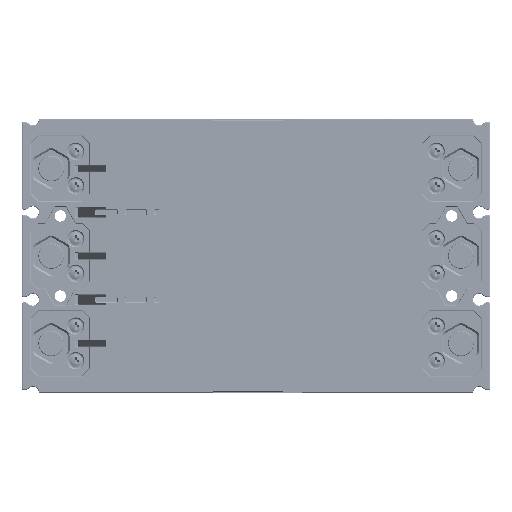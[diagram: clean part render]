
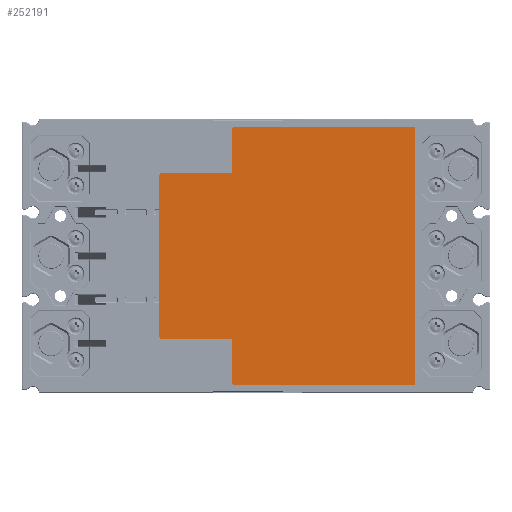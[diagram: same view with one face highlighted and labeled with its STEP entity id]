
A CAD part, front view. The second image highlights one B-rep face of the part: STEP entity #252191.
In plain terms, the highlighted planar face has unit normal (0, -1, 0) as drawn and (0, 0, 1) by its records, which use the part's own axes.
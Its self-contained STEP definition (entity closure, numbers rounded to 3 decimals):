
#251768=CARTESIAN_POINT('',(-44.5,139.5,0.5));
#251769=DIRECTION('',(0.,0.,-1.));
#251770=DIRECTION('',(-1.,0.,0.));
#251771=AXIS2_PLACEMENT_3D('',#251768,#251769,#251770);
#251773=DIRECTION('',(1.,0.,0.));
#251774=VECTOR('',#251773,89.);
#251775=CARTESIAN_POINT('',(-44.5,140.5,0.5));
#251776=LINE('',#251775,#251774);
#251777=CARTESIAN_POINT('',(44.5,139.5,0.5));
#251778=DIRECTION('',(0.,0.,-1.));
#251779=DIRECTION('',(0.,1.,0.));
#251780=AXIS2_PLACEMENT_3D('',#251777,#251778,#251779);
#251782=DIRECTION('',(0.,-1.,0.));
#251783=VECTOR('',#251782,38.);
#251784=CARTESIAN_POINT('',(45.5,139.5,0.5));
#251785=LINE('',#251784,#251783);
#251786=CARTESIAN_POINT('',(46.5,101.5,0.5));
#251787=DIRECTION('',(0.,0.,1.));
#251788=DIRECTION('',(-1.,0.,0.));
#251789=AXIS2_PLACEMENT_3D('',#251786,#251787,#251788);
#251791=DIRECTION('',(1.,0.,0.));
#251792=VECTOR('',#251791,23.5);
#251793=CARTESIAN_POINT('',(46.5,100.5,0.5));
#251794=LINE('',#251793,#251792);
#251795=CARTESIAN_POINT('',(70.,99.5,0.5));
#251796=DIRECTION('',(0.,0.,-1.));
#251797=DIRECTION('',(0.,1.,0.));
#251798=AXIS2_PLACEMENT_3D('',#251795,#251796,#251797);
#251800=DIRECTION('',(0.,-1.,0.));
#251801=VECTOR('',#251800,98.5);
#251802=CARTESIAN_POINT('',(71.,99.5,0.5));
#251803=LINE('',#251802,#251801);
#251804=CARTESIAN_POINT('',(70.,1.,0.5));
#251805=DIRECTION('',(0.,0.,-1.));
#251806=DIRECTION('',(1.,0.,0.));
#251807=AXIS2_PLACEMENT_3D('',#251804,#251805,#251806);
#251809=DIRECTION('',(-1.,0.,0.));
#251810=VECTOR('',#251809,140.);
#251811=CARTESIAN_POINT('',(70.,0.,0.5));
#251812=LINE('',#251811,#251810);
#251813=CARTESIAN_POINT('',(-70.,1.,0.5));
#251814=DIRECTION('',(0.,0.,-1.));
#251815=DIRECTION('',(0.,-1.,0.));
#251816=AXIS2_PLACEMENT_3D('',#251813,#251814,#251815);
#251818=DIRECTION('',(0.,1.,0.));
#251819=VECTOR('',#251818,98.5);
#251820=CARTESIAN_POINT('',(-71.,1.,0.5));
#251821=LINE('',#251820,#251819);
#251822=CARTESIAN_POINT('',(-70.,99.5,0.5));
#251823=DIRECTION('',(0.,0.,-1.));
#251824=DIRECTION('',(-1.,0.,0.));
#251825=AXIS2_PLACEMENT_3D('',#251822,#251823,#251824);
#251827=DIRECTION('',(1.,0.,0.));
#251828=VECTOR('',#251827,23.5);
#251829=CARTESIAN_POINT('',(-70.,100.5,0.5));
#251830=LINE('',#251829,#251828);
#251831=CARTESIAN_POINT('',(-46.5,101.5,0.5));
#251832=DIRECTION('',(0.,0.,1.));
#251833=DIRECTION('',(0.,-1.,0.));
#251834=AXIS2_PLACEMENT_3D('',#251831,#251832,#251833);
#251836=DIRECTION('',(0.,1.,0.));
#251837=VECTOR('',#251836,38.);
#251838=CARTESIAN_POINT('',(-45.5,101.5,0.5));
#251839=LINE('',#251838,#251837);
#251872=CARTESIAN_POINT('',(-44.5,140.5,0.5));
#251873=VERTEX_POINT('',#251872);
#251874=CARTESIAN_POINT('',(-45.5,139.5,0.5));
#251875=VERTEX_POINT('',#251874);
#251876=CARTESIAN_POINT('',(44.5,140.5,0.5));
#251877=VERTEX_POINT('',#251876);
#251878=CARTESIAN_POINT('',(45.5,139.5,0.5));
#251879=VERTEX_POINT('',#251878);
#251880=CARTESIAN_POINT('',(45.5,101.5,0.5));
#251881=VERTEX_POINT('',#251880);
#251882=CARTESIAN_POINT('',(46.5,100.5,0.5));
#251883=VERTEX_POINT('',#251882);
#251884=CARTESIAN_POINT('',(70.,100.5,0.5));
#251885=VERTEX_POINT('',#251884);
#251886=CARTESIAN_POINT('',(71.,99.5,0.5));
#251887=VERTEX_POINT('',#251886);
#251888=CARTESIAN_POINT('',(71.,1.,0.5));
#251889=VERTEX_POINT('',#251888);
#251890=CARTESIAN_POINT('',(70.,0.,0.5));
#251891=VERTEX_POINT('',#251890);
#251892=CARTESIAN_POINT('',(-70.,0.,0.5));
#251893=VERTEX_POINT('',#251892);
#251894=CARTESIAN_POINT('',(-71.,1.,0.5));
#251895=VERTEX_POINT('',#251894);
#251896=CARTESIAN_POINT('',(-71.,99.5,0.5));
#251897=VERTEX_POINT('',#251896);
#251898=CARTESIAN_POINT('',(-70.,100.5,0.5));
#251899=VERTEX_POINT('',#251898);
#251900=CARTESIAN_POINT('',(-46.5,100.5,0.5));
#251901=VERTEX_POINT('',#251900);
#251902=CARTESIAN_POINT('',(-45.5,101.5,0.5));
#251903=VERTEX_POINT('',#251902);
#252168=CARTESIAN_POINT('',(0.,0.,0.5));
#252169=DIRECTION('',(0.,0.,1.));
#252170=DIRECTION('',(1.,0.,0.));
#252171=AXIS2_PLACEMENT_3D('',#252168,#252169,#252170);
#252172=PLANE('',#252171);
#252173=ORIENTED_EDGE('',*,*,#251952,.T.);
#252174=ORIENTED_EDGE('',*,*,#251968,.T.);
#252175=ORIENTED_EDGE('',*,*,#251981,.T.);
#252176=ORIENTED_EDGE('',*,*,#251996,.T.);
#252177=ORIENTED_EDGE('',*,*,#252010,.T.);
#252178=ORIENTED_EDGE('',*,*,#252022,.T.);
#252179=ORIENTED_EDGE('',*,*,#252037,.T.);
#252180=ORIENTED_EDGE('',*,*,#252052,.T.);
#252181=ORIENTED_EDGE('',*,*,#252065,.T.);
#252182=ORIENTED_EDGE('',*,*,#252080,.T.);
#252183=ORIENTED_EDGE('',*,*,#252093,.T.);
#252184=ORIENTED_EDGE('',*,*,#252108,.T.);
#252185=ORIENTED_EDGE('',*,*,#252121,.T.);
#252186=ORIENTED_EDGE('',*,*,#252136,.T.);
#252187=ORIENTED_EDGE('',*,*,#252150,.T.);
#252188=ORIENTED_EDGE('',*,*,#252161,.T.);
#252189=EDGE_LOOP('',(#252173,#252174,#252175,#252176,#252177,#252178,#252179,
#252180,#252181,#252182,#252183,#252184,#252185,#252186,#252187,#252188));
#252190=FACE_OUTER_BOUND('',#252189,.F.);
#252191=ADVANCED_FACE('',(#252190),#252172,.T.);
#251772=CIRCLE('',#251771,1.);
#251781=CIRCLE('',#251780,1.);
#251790=CIRCLE('',#251789,1.);
#251799=CIRCLE('',#251798,1.);
#251808=CIRCLE('',#251807,1.);
#251817=CIRCLE('',#251816,1.);
#251826=CIRCLE('',#251825,1.);
#251835=CIRCLE('',#251834,1.);
#251952=EDGE_CURVE('',#251875,#251873,#251772,.T.);
#251968=EDGE_CURVE('',#251873,#251877,#251776,.T.);
#251981=EDGE_CURVE('',#251877,#251879,#251781,.T.);
#251996=EDGE_CURVE('',#251879,#251881,#251785,.T.);
#252010=EDGE_CURVE('',#251881,#251883,#251790,.T.);
#252022=EDGE_CURVE('',#251883,#251885,#251794,.T.);
#252037=EDGE_CURVE('',#251885,#251887,#251799,.T.);
#252052=EDGE_CURVE('',#251887,#251889,#251803,.T.);
#252065=EDGE_CURVE('',#251889,#251891,#251808,.T.);
#252080=EDGE_CURVE('',#251891,#251893,#251812,.T.);
#252093=EDGE_CURVE('',#251893,#251895,#251817,.T.);
#252108=EDGE_CURVE('',#251895,#251897,#251821,.T.);
#252121=EDGE_CURVE('',#251897,#251899,#251826,.T.);
#252136=EDGE_CURVE('',#251899,#251901,#251830,.T.);
#252150=EDGE_CURVE('',#251901,#251903,#251835,.T.);
#252161=EDGE_CURVE('',#251903,#251875,#251839,.T.);
